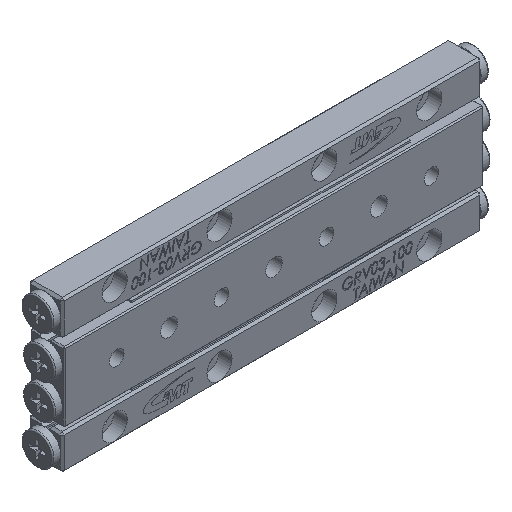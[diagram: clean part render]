
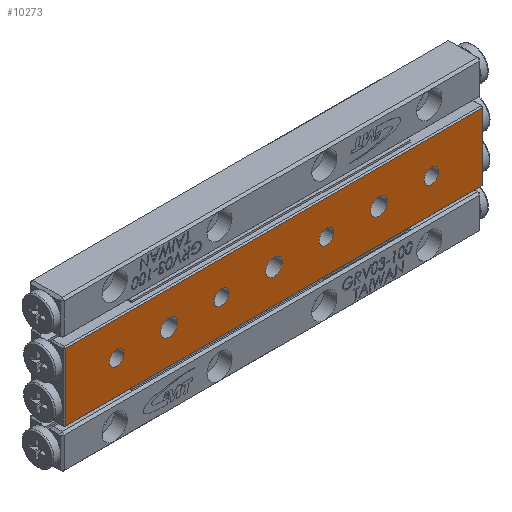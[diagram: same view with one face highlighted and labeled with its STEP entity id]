
A CAD part, isometric view. The second image highlights one B-rep face of the part: STEP entity #10273.
In plain terms, the highlighted planar face has unit normal (0, -1, 0).
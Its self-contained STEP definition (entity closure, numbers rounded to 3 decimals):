
#98 = CARTESIAN_POINT ( 'NONE',  ( -37.5, 0., 0. ) ) ;
#285 = DIRECTION ( 'NONE',  ( 0., 0., -1. ) ) ;
#534 = EDGE_CURVE ( 'NONE', #26683, #26683, #29686, .T. ) ;
#608 = LINE ( 'NONE', #3459, #20007 ) ;
#650 = CIRCLE ( 'NONE', #31395, 2. ) ;
#844 = AXIS2_PLACEMENT_3D ( 'NONE', #22251, #2292, #2474 ) ;
#855 = CARTESIAN_POINT ( 'NONE',  ( 12.5, 0., 1.75 ) ) ;
#1234 = ORIENTED_EDGE ( 'NONE', *, *, #34525, .T. ) ;
#1389 = DIRECTION ( 'NONE',  ( 0., 0., 1. ) ) ;
#1840 = DIRECTION ( 'NONE',  ( 0., 1., 0. ) ) ;
#1874 = EDGE_CURVE ( 'NONE', #18207, #18207, #24255, .T. ) ;
#1979 = EDGE_LOOP ( 'NONE', ( #5997 ) ) ;
#2266 = ORIENTED_EDGE ( 'NONE', *, *, #33318, .T. ) ;
#2292 = DIRECTION ( 'NONE',  ( 0., 1., 0. ) ) ;
#2474 = DIRECTION ( 'NONE',  ( 0., 0., 1. ) ) ;
#2500 = AXIS2_PLACEMENT_3D ( 'NONE', #27986, #27214, #1389 ) ;
#3038 = FACE_BOUND ( 'NONE', #35955, .T. ) ;
#3325 = CARTESIAN_POINT ( 'NONE',  ( -37.5, 0., 1.75 ) ) ;
#3459 = CARTESIAN_POINT ( 'NONE',  ( -50., 0., -8. ) ) ;
#3853 = LINE ( 'NONE', #18534, #17577 ) ;
#4084 = EDGE_CURVE ( 'NONE', #23096, #23096, #21478, .T. ) ;
#4324 = AXIS2_PLACEMENT_3D ( 'NONE', #27495, #1840, #13349 ) ;
#4945 = CIRCLE ( 'NONE', #4324, 2. ) ;
#5171 = CARTESIAN_POINT ( 'NONE',  ( 25., 0., 2. ) ) ;
#5290 = ORIENTED_EDGE ( 'NONE', *, *, #17665, .T. ) ;
#5684 = PLANE ( 'NONE',  #844 ) ;
#5855 = FACE_OUTER_BOUND ( 'NONE', #18317, .T. ) ;
#5985 = DIRECTION ( 'NONE',  ( 0., 0., 1. ) ) ;
#5997 = ORIENTED_EDGE ( 'NONE', *, *, #4084, .T. ) ;
#6055 = CARTESIAN_POINT ( 'NONE',  ( 49.7, 0., 8.3 ) ) ;
#6362 = DIRECTION ( 'NONE',  ( 0., 1., 0. ) ) ;
#8320 = FACE_BOUND ( 'NONE', #17875, .T. ) ;
#8495 = FACE_BOUND ( 'NONE', #1979, .T. ) ;
#8628 = EDGE_CURVE ( 'NONE', #24218, #24218, #22967, .T. ) ;
#8767 = VERTEX_POINT ( 'NONE', #22479 ) ;
#9230 = AXIS2_PLACEMENT_3D ( 'NONE', #20866, #23506, #5985 ) ;
#10273 = ADVANCED_FACE ( 'NONE', ( #5855, #28864, #22816, #8320, #31532, #3038, #19815, #8495 ), #5684, .F. ) ;
#10809 = CARTESIAN_POINT ( 'NONE',  ( -12.5, 0., 1.75 ) ) ;
#13349 = DIRECTION ( 'NONE',  ( 0., 0., 1. ) ) ;
#14225 = VERTEX_POINT ( 'NONE', #5171 ) ;
#14888 = ORIENTED_EDGE ( 'NONE', *, *, #33750, .T. ) ;
#15594 = CARTESIAN_POINT ( 'NONE',  ( 12.5, 0., 0. ) ) ;
#16743 = CARTESIAN_POINT ( 'NONE',  ( -49.7, 0., 8.3 ) ) ;
#17310 = AXIS2_PLACEMENT_3D ( 'NONE', #21204, #32750, #33281 ) ;
#17577 = VECTOR ( 'NONE', #29862, 1000. ) ;
#17665 = EDGE_CURVE ( 'NONE', #36268, #31507, #3853, .T. ) ;
#17875 = EDGE_LOOP ( 'NONE', ( #20701 ) ) ;
#17879 = DIRECTION ( 'NONE',  ( 0., 0., 1. ) ) ;
#17973 = CARTESIAN_POINT ( 'NONE',  ( 49.7, 0., 8. ) ) ;
#18207 = VERTEX_POINT ( 'NONE', #3325 ) ;
#18317 = EDGE_LOOP ( 'NONE', ( #1234, #20857, #14888, #5290 ) ) ;
#18534 = CARTESIAN_POINT ( 'NONE',  ( -50., 0., 8. ) ) ;
#19815 = FACE_BOUND ( 'NONE', #27855, .T. ) ;
#19900 = VECTOR ( 'NONE', #29084, 1000. ) ;
#20007 = VECTOR ( 'NONE', #23424, 1000. ) ;
#20104 = EDGE_LOOP ( 'NONE', ( #2266 ) ) ;
#20205 = CARTESIAN_POINT ( 'NONE',  ( -49.7, 0., -8. ) ) ;
#20659 = CIRCLE ( 'NONE', #9230, 1.75 ) ;
#20701 = ORIENTED_EDGE ( 'NONE', *, *, #37017, .T. ) ;
#20857 = ORIENTED_EDGE ( 'NONE', *, *, #25950, .T. ) ;
#20866 = CARTESIAN_POINT ( 'NONE',  ( -12.5, 0., 0. ) ) ;
#21204 = CARTESIAN_POINT ( 'NONE',  ( 37.5, 0., 0. ) ) ;
#21478 = CIRCLE ( 'NONE', #17310, 1.75 ) ;
#21973 = EDGE_LOOP ( 'NONE', ( #32758 ) ) ;
#22251 = CARTESIAN_POINT ( 'NONE',  ( -50., 0., 8.3 ) ) ;
#22402 = AXIS2_PLACEMENT_3D ( 'NONE', #15594, #6362, #17879 ) ;
#22440 = AXIS2_PLACEMENT_3D ( 'NONE', #98, #31428, #34623 ) ;
#22479 = CARTESIAN_POINT ( 'NONE',  ( 49.7, 0., -8. ) ) ;
#22816 = FACE_BOUND ( 'NONE', #20104, .T. ) ;
#22967 = CIRCLE ( 'NONE', #2500, 2. ) ;
#23096 = VERTEX_POINT ( 'NONE', #33472 ) ;
#23424 = DIRECTION ( 'NONE',  ( 1., 0., 0. ) ) ;
#23506 = DIRECTION ( 'NONE',  ( 0., 1., 0. ) ) ;
#23532 = VECTOR ( 'NONE', #285, 1000. ) ;
#24218 = VERTEX_POINT ( 'NONE', #35716 ) ;
#24255 = CIRCLE ( 'NONE', #22440, 1.75 ) ;
#25950 = EDGE_CURVE ( 'NONE', #32877, #8767, #608, .T. ) ;
#26081 = ORIENTED_EDGE ( 'NONE', *, *, #8628, .T. ) ;
#26683 = VERTEX_POINT ( 'NONE', #855 ) ;
#27214 = DIRECTION ( 'NONE',  ( 0., 1., 0. ) ) ;
#27258 = CARTESIAN_POINT ( 'NONE',  ( -49.7, 0., 8. ) ) ;
#27416 = ORIENTED_EDGE ( 'NONE', *, *, #1874, .T. ) ;
#27450 = EDGE_LOOP ( 'NONE', ( #26081 ) ) ;
#27495 = CARTESIAN_POINT ( 'NONE',  ( 25., 0., 0. ) ) ;
#27792 = VERTEX_POINT ( 'NONE', #34204 ) ;
#27820 = CARTESIAN_POINT ( 'NONE',  ( 0., 0., 0. ) ) ;
#27855 = EDGE_LOOP ( 'NONE', ( #34799 ) ) ;
#27986 = CARTESIAN_POINT ( 'NONE',  ( -25., 0., 0. ) ) ;
#27998 = VERTEX_POINT ( 'NONE', #10809 ) ;
#28193 = DIRECTION ( 'NONE',  ( 0., 0., 1. ) ) ;
#28239 = LINE ( 'NONE', #16743, #23532 ) ;
#28864 = FACE_BOUND ( 'NONE', #21973, .T. ) ;
#29084 = DIRECTION ( 'NONE',  ( 0., 0., 1. ) ) ;
#29686 = CIRCLE ( 'NONE', #22402, 1.75 ) ;
#29862 = DIRECTION ( 'NONE',  ( -1., 0., 0. ) ) ;
#31364 = LINE ( 'NONE', #6055, #19900 ) ;
#31395 = AXIS2_PLACEMENT_3D ( 'NONE', #27820, #34049, #28193 ) ;
#31428 = DIRECTION ( 'NONE',  ( 0., 1., 0. ) ) ;
#31507 = VERTEX_POINT ( 'NONE', #27258 ) ;
#31532 = FACE_BOUND ( 'NONE', #27450, .T. ) ;
#32750 = DIRECTION ( 'NONE',  ( 0., 1., 0. ) ) ;
#32758 = ORIENTED_EDGE ( 'NONE', *, *, #35891, .T. ) ;
#32877 = VERTEX_POINT ( 'NONE', #20205 ) ;
#33281 = DIRECTION ( 'NONE',  ( 0., 0., 1. ) ) ;
#33318 = EDGE_CURVE ( 'NONE', #27792, #27792, #650, .T. ) ;
#33472 = CARTESIAN_POINT ( 'NONE',  ( 37.5, 0., 1.75 ) ) ;
#33750 = EDGE_CURVE ( 'NONE', #8767, #36268, #31364, .T. ) ;
#34049 = DIRECTION ( 'NONE',  ( 0., 1., 0. ) ) ;
#34204 = CARTESIAN_POINT ( 'NONE',  ( 0., 0., 2. ) ) ;
#34525 = EDGE_CURVE ( 'NONE', #31507, #32877, #28239, .T. ) ;
#34623 = DIRECTION ( 'NONE',  ( 0., 0., 1. ) ) ;
#34799 = ORIENTED_EDGE ( 'NONE', *, *, #534, .T. ) ;
#35716 = CARTESIAN_POINT ( 'NONE',  ( -25., 0., 2. ) ) ;
#35891 = EDGE_CURVE ( 'NONE', #14225, #14225, #4945, .T. ) ;
#35955 = EDGE_LOOP ( 'NONE', ( #27416 ) ) ;
#36268 = VERTEX_POINT ( 'NONE', #17973 ) ;
#37017 = EDGE_CURVE ( 'NONE', #27998, #27998, #20659, .T. ) ;
